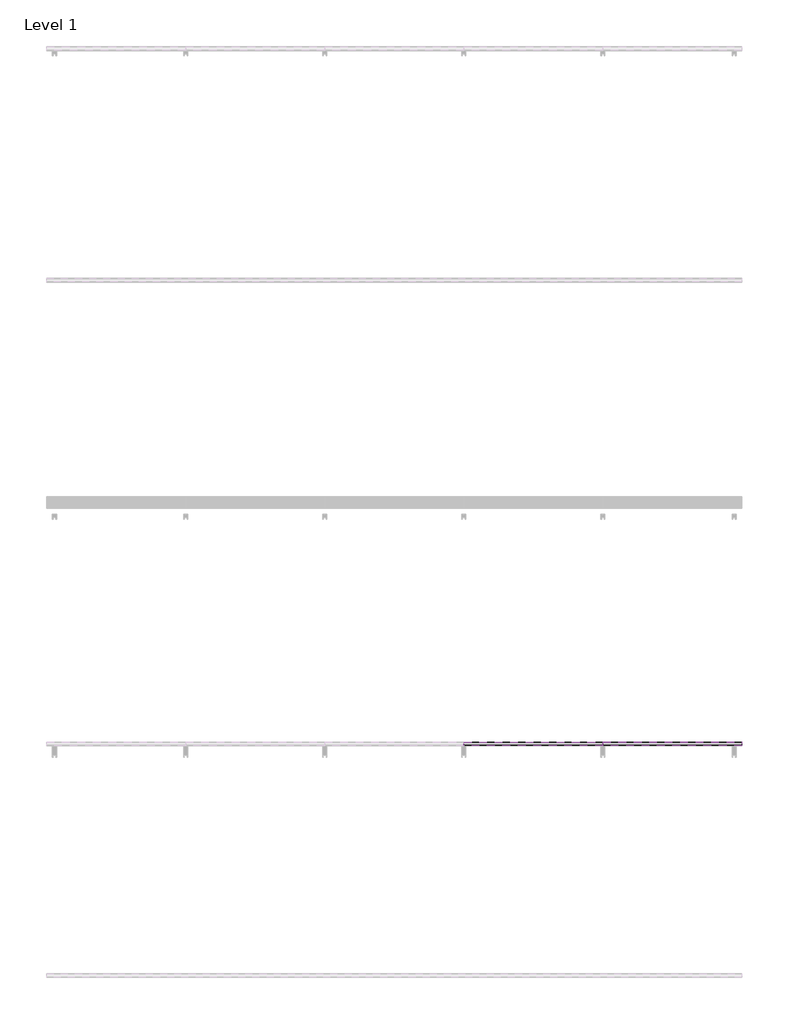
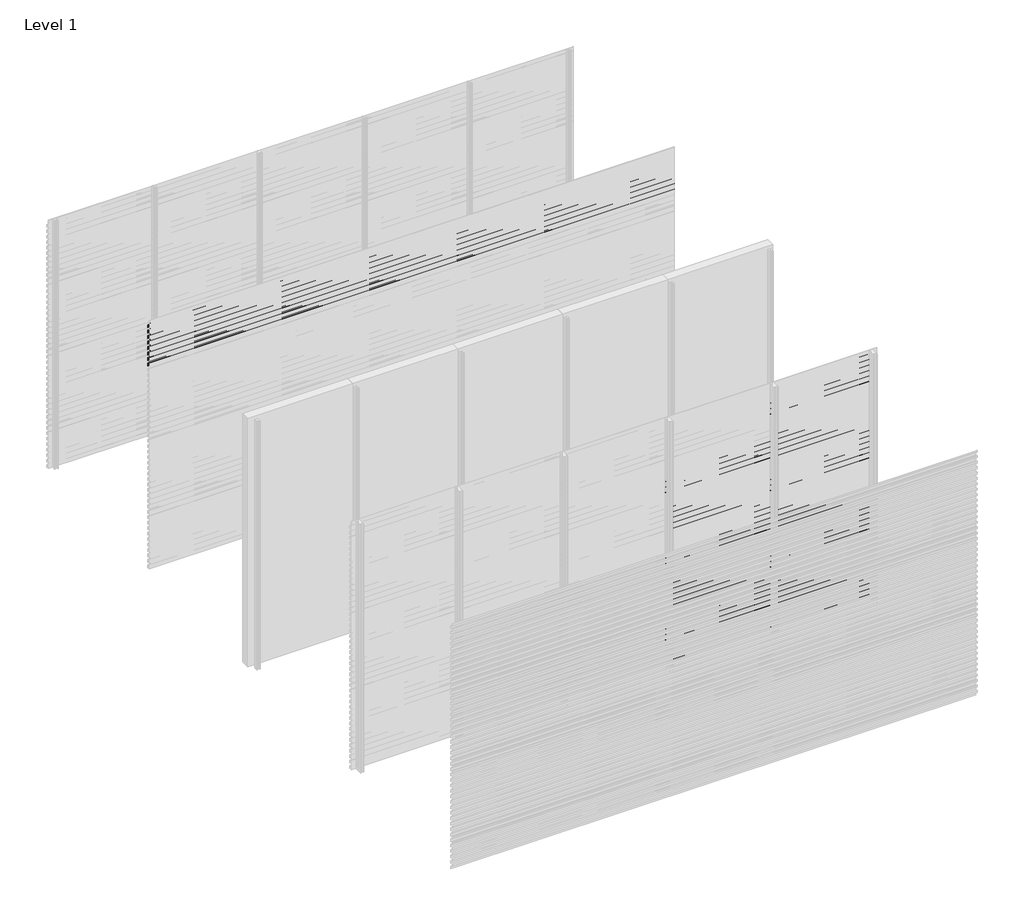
# One storey, part 24 of 33: 88 proxies.
"""IFC4 building model written with IfcOpenShell, lengths in millimetres."""

from ifc_helpers import new_model, si_unit, frame, origin, place, context, project, spatial, polyline, outline, extrude, element, save

model = new_model("IFC4")

# Units and contexts
model_context = context("Model", 3, world=origin())
ifc_project = project(units=[si_unit("LENGTHUNIT", "METRE", prefix="MILLI")], contexts=[model_context])

# Site, building, storey
site = spatial("IfcSite", under=ifc_project)
building = spatial("IfcBuilding", under=site)
storey = spatial("IfcBuildingStorey", under=building, Name="Level 1", Elevation=0.0)

# Proxies
placement = place(None, origin())
element("IfcBuildingElementProxy", 1, Name="Wall Sweeps", at=placement, inside=storey, context=model_context, shape_type="SweptSolid", body=[
    extrude(outline(polyline([(-13967.0, 2930.0), (-13967.0, 2897.0), (-13968.25, 2897.7216933), (-13968.25, 2929.2872415), (-13998.0, 2950.0588647), (-13998.0, 2970.0), (-13996.75, 2970.0), (-13996.75, 2950.7716232), (-13967.0, 2930.0)])), frame((0.0, 0.0, 0.0), z_axis=(1.0, 0.0, 0.0), x_axis=(0.0, 1.0, 0.0)), (0.0, 0.0, 1.0), 6000.0),
])
element("IfcBuildingElementProxy", 2, Name="Wall Sweeps", at=placement, inside=storey, context=model_context, shape_type="SweptSolid", body=[
    extrude(outline(polyline([(-13967.0, 2864.0), (-13967.0, 2831.0), (-13968.25, 2831.7216933), (-13968.25, 2863.2872415), (-13998.0, 2884.0588647), (-13998.0, 2904.0), (-13996.75, 2904.0), (-13996.75, 2884.7716232), (-13967.0, 2864.0)])), frame((0.0, 0.0, 0.0), z_axis=(1.0, 0.0, 0.0), x_axis=(0.0, 1.0, 0.0)), (0.0, 0.0, 1.0), 6000.0),
])
element("IfcBuildingElementProxy", 3, Name="Wall Sweeps", at=placement, inside=storey, context=model_context, shape_type="SweptSolid", body=[
    extrude(outline(polyline([(-13967.0, 2798.0), (-13967.0, 2765.0), (-13968.25, 2765.7216933), (-13968.25, 2797.2872415), (-13998.0, 2818.0588647), (-13998.0, 2838.0), (-13996.75, 2838.0), (-13996.75, 2818.7716232), (-13967.0, 2798.0)])), frame((0.0, 0.0, 0.0), z_axis=(1.0, 0.0, 0.0), x_axis=(0.0, 1.0, 0.0)), (0.0, 0.0, 1.0), 6000.0),
])
element("IfcBuildingElementProxy", 4, Name="Wall Sweeps", at=placement, inside=storey, context=model_context, shape_type="SweptSolid", body=[
    extrude(outline(polyline([(-13967.0, 2732.0), (-13967.0, 2699.0), (-13968.25, 2699.7216933), (-13968.25, 2731.2872415), (-13998.0, 2752.0588647), (-13998.0, 2772.0), (-13996.75, 2772.0), (-13996.75, 2752.7716232), (-13967.0, 2732.0)])), frame((0.0, 0.0, 0.0), z_axis=(1.0, 0.0, 0.0), x_axis=(0.0, 1.0, 0.0)), (0.0, 0.0, 1.0), 6000.0),
])
element("IfcBuildingElementProxy", 5, Name="Wall Sweeps", at=placement, inside=storey, context=model_context, shape_type="SweptSolid", body=[
    extrude(outline(polyline([(-13967.0, 2666.0), (-13967.0, 2633.0), (-13968.25, 2633.7216933), (-13968.25, 2665.2872415), (-13998.0, 2686.0588647), (-13998.0, 2706.0), (-13996.75, 2706.0), (-13996.75, 2686.7716232), (-13967.0, 2666.0)])), frame((0.0, 0.0, 0.0), z_axis=(1.0, 0.0, 0.0), x_axis=(0.0, 1.0, 0.0)), (0.0, 0.0, 1.0), 6000.0),
])
element("IfcBuildingElementProxy", 6, Name="Wall Sweeps", at=placement, inside=storey, context=model_context, shape_type="SweptSolid", body=[
    extrude(outline(polyline([(-13967.0, 2600.0), (-13967.0, 2567.0), (-13968.25, 2567.7216933), (-13968.25, 2599.2872415), (-13998.0, 2620.0588647), (-13998.0, 2640.0), (-13996.75, 2640.0), (-13996.75, 2620.7716232), (-13967.0, 2600.0)])), frame((0.0, 0.0, 0.0), z_axis=(1.0, 0.0, 0.0), x_axis=(0.0, 1.0, 0.0)), (0.0, 0.0, 1.0), 6000.0),
])
element("IfcBuildingElementProxy", 7, Name="Wall Sweeps", at=placement, inside=storey, context=model_context, shape_type="SweptSolid", body=[
    extrude(outline(polyline([(-13967.0, 2534.0), (-13967.0, 2501.0), (-13968.25, 2501.7216933), (-13968.25, 2533.2872415), (-13998.0, 2554.0588647), (-13998.0, 2574.0), (-13996.75, 2574.0), (-13996.75, 2554.7716232), (-13967.0, 2534.0)])), frame((0.0, 0.0, 0.0), z_axis=(1.0, 0.0, 0.0), x_axis=(0.0, 1.0, 0.0)), (0.0, 0.0, 1.0), 6000.0),
])
element("IfcBuildingElementProxy", 8, Name="Wall Sweeps", at=placement, inside=storey, context=model_context, shape_type="SweptSolid", body=[
    extrude(outline(polyline([(-13967.0, 2468.0), (-13967.0, 2435.0), (-13968.25, 2435.7216933), (-13968.25, 2467.2872415), (-13998.0, 2488.0588647), (-13998.0, 2508.0), (-13996.75, 2508.0), (-13996.75, 2488.7716232), (-13967.0, 2468.0)])), frame((0.0, 0.0, 0.0), z_axis=(1.0, 0.0, 0.0), x_axis=(0.0, 1.0, 0.0)), (0.0, 0.0, 1.0), 6000.0),
])
element("IfcBuildingElementProxy", 9, Name="Wall Sweeps", at=placement, inside=storey, context=model_context, shape_type="SweptSolid", body=[
    extrude(outline(polyline([(-17967.0, 2270.0), (-17967.0, 2237.0), (-17968.25, 2237.7216933), (-17968.25, 2269.2872415), (-17998.0, 2290.0588647), (-17998.0, 2310.0), (-17996.75, 2310.0), (-17996.75, 2290.7716232), (-17967.0, 2270.0)])), frame((3600.0, 0.0, 0.0), z_axis=(1.0, 0.0, 0.0), x_axis=(0.0, 1.0, 0.0)), (0.0, 0.0, 1.0), 1200.0),
])
element("IfcBuildingElementProxy", 10, Name="Wall Sweeps", at=placement, inside=storey, context=model_context, shape_type="SweptSolid", body=[
    extrude(outline(polyline([(-17967.0, 2204.0), (-17967.0, 2171.0), (-17968.25, 2171.7216933), (-17968.25, 2203.2872415), (-17998.0, 2224.0588647), (-17998.0, 2244.0), (-17996.75, 2244.0), (-17996.75, 2224.7716232), (-17967.0, 2204.0)])), frame((3600.0, 0.0, 0.0), z_axis=(1.0, 0.0, 0.0), x_axis=(0.0, 1.0, 0.0)), (0.0, 0.0, 1.0), 1200.0),
])
element("IfcBuildingElementProxy", 11, Name="Wall Sweeps", at=placement, inside=storey, context=model_context, shape_type="SweptSolid", body=[
    extrude(outline(polyline([(-17967.0, 2138.0), (-17967.0, 2105.0), (-17968.25, 2105.7216933), (-17968.25, 2137.2872415), (-17998.0, 2158.0588647), (-17998.0, 2178.0), (-17996.75, 2178.0), (-17996.75, 2158.7716232), (-17967.0, 2138.0)])), frame((3600.0, 0.0, 0.0), z_axis=(1.0, 0.0, 0.0), x_axis=(0.0, 1.0, 0.0)), (0.0, 0.0, 1.0), 1200.0),
])
element("IfcBuildingElementProxy", 12, Name="Wall Sweeps", at=placement, inside=storey, context=model_context, shape_type="SweptSolid", body=[
    extrude(outline(polyline([(-17967.0, 2072.0), (-17967.0, 2039.0), (-17968.25, 2039.7216933), (-17968.25, 2071.2872415), (-17998.0, 2092.0588647), (-17998.0, 2112.0), (-17996.75, 2112.0), (-17996.75, 2092.7716232), (-17967.0, 2072.0)])), frame((3600.0, 0.0, 0.0), z_axis=(1.0, 0.0, 0.0), x_axis=(0.0, 1.0, 0.0)), (0.0, 0.0, 1.0), 1200.0),
])
element("IfcBuildingElementProxy", 13, Name="Wall Sweeps", at=placement, inside=storey, context=model_context, shape_type="SweptSolid", body=[
    extrude(outline(polyline([(-17967.0, 2006.0), (-17967.0, 1973.0), (-17968.25, 1973.7216933), (-17968.25, 2005.2872415), (-17998.0, 2026.0588647), (-17998.0, 2046.0), (-17996.75, 2046.0), (-17996.75, 2026.7716232), (-17967.0, 2006.0)])), frame((3600.0, 0.0, 0.0), z_axis=(1.0, 0.0, 0.0), x_axis=(0.0, 1.0, 0.0)), (0.0, 0.0, 1.0), 1200.0),
])
element("IfcBuildingElementProxy", 14, Name="Wall Sweeps", at=placement, inside=storey, context=model_context, shape_type="SweptSolid", body=[
    extrude(outline(polyline([(-17967.0, 1940.0), (-17967.0, 1907.0), (-17968.25, 1907.7216933), (-17968.25, 1939.2872415), (-17998.0, 1960.0588647), (-17998.0, 1980.0), (-17996.75, 1980.0), (-17996.75, 1960.7716232), (-17967.0, 1940.0)])), frame((3600.0, 0.0, 0.0), z_axis=(1.0, 0.0, 0.0), x_axis=(0.0, 1.0, 0.0)), (0.0, 0.0, 1.0), 1200.0),
])
element("IfcBuildingElementProxy", 15, Name="Wall Sweeps", at=placement, inside=storey, context=model_context, shape_type="SweptSolid", body=[
    extrude(outline(polyline([(-17967.0, 1874.0), (-17967.0, 1841.0), (-17968.25, 1841.7216933), (-17968.25, 1873.2872415), (-17998.0, 1894.0588647), (-17998.0, 1914.0), (-17996.75, 1914.0), (-17996.75, 1894.7716232), (-17967.0, 1874.0)])), frame((3600.0, 0.0, 0.0), z_axis=(1.0, 0.0, 0.0), x_axis=(0.0, 1.0, 0.0)), (0.0, 0.0, 1.0), 1200.0),
])
element("IfcBuildingElementProxy", 16, Name="Wall Sweeps", at=placement, inside=storey, context=model_context, shape_type="SweptSolid", body=[
    extrude(outline(polyline([(-17967.0, 1808.0), (-17967.0, 1775.0), (-17968.25, 1775.7216933), (-17968.25, 1807.2872415), (-17998.0, 1828.0588647), (-17998.0, 1848.0), (-17996.75, 1848.0), (-17996.75, 1828.7716232), (-17967.0, 1808.0)])), frame((3600.0, 0.0, 0.0), z_axis=(1.0, 0.0, 0.0), x_axis=(0.0, 1.0, 0.0)), (0.0, 0.0, 1.0), 1200.0),
])
element("IfcBuildingElementProxy", 17, Name="Wall Sweeps", at=placement, inside=storey, context=model_context, shape_type="SweptSolid", body=[
    extrude(outline(polyline([(-17967.0, 1742.0), (-17967.0, 1709.0), (-17968.25, 1709.7216933), (-17968.25, 1741.2872415), (-17998.0, 1762.0588647), (-17998.0, 1782.0), (-17996.75, 1782.0), (-17996.75, 1762.7716232), (-17967.0, 1742.0)])), frame((3600.0, 0.0, 0.0), z_axis=(1.0, 0.0, 0.0), x_axis=(0.0, 1.0, 0.0)), (0.0, 0.0, 1.0), 1200.0),
])
element("IfcBuildingElementProxy", 18, Name="Wall Sweeps", at=placement, inside=storey, context=model_context, shape_type="SweptSolid", body=[
    extrude(outline(polyline([(-17967.0, 1676.0), (-17967.0, 1643.0), (-17968.25, 1643.7216933), (-17968.25, 1675.2872415), (-17998.0, 1696.0588647), (-17998.0, 1716.0), (-17996.75, 1716.0), (-17996.75, 1696.7716232), (-17967.0, 1676.0)])), frame((3600.0, 0.0, 0.0), z_axis=(1.0, 0.0, 0.0), x_axis=(0.0, 1.0, 0.0)), (0.0, 0.0, 1.0), 1200.0),
])
element("IfcBuildingElementProxy", 19, Name="Wall Sweeps", at=placement, inside=storey, context=model_context, shape_type="SweptSolid", body=[
    extrude(outline(polyline([(-17967.0, 1610.0), (-17967.0, 1577.0), (-17968.25, 1577.7216933), (-17968.25, 1609.2872415), (-17998.0, 1630.0588647), (-17998.0, 1650.0), (-17996.75, 1650.0), (-17996.75, 1630.7716232), (-17967.0, 1610.0)])), frame((3600.0, 0.0, 0.0), z_axis=(1.0, 0.0, 0.0), x_axis=(0.0, 1.0, 0.0)), (0.0, 0.0, 1.0), 1200.0),
])
element("IfcBuildingElementProxy", 20, Name="Wall Sweeps", at=placement, inside=storey, context=model_context, shape_type="SweptSolid", body=[
    extrude(outline(polyline([(-17967.0, 1544.0), (-17967.0, 1511.0), (-17968.25, 1511.7216933), (-17968.25, 1543.2872415), (-17998.0, 1564.0588647), (-17998.0, 1584.0), (-17996.75, 1584.0), (-17996.75, 1564.7716232), (-17967.0, 1544.0)])), frame((3600.0, 0.0, 0.0), z_axis=(1.0, 0.0, 0.0), x_axis=(0.0, 1.0, 0.0)), (0.0, 0.0, 1.0), 1200.0),
])
element("IfcBuildingElementProxy", 21, Name="Wall Sweeps", at=placement, inside=storey, context=model_context, shape_type="SweptSolid", body=[
    extrude(outline(polyline([(-17967.0, 1478.0), (-17967.0, 1445.0), (-17968.25, 1445.7216933), (-17968.25, 1477.2872415), (-17998.0, 1498.0588647), (-17998.0, 1518.0), (-17996.75, 1518.0), (-17996.75, 1498.7716232), (-17967.0, 1478.0)])), frame((3600.0, 0.0, 0.0), z_axis=(1.0, 0.0, 0.0), x_axis=(0.0, 1.0, 0.0)), (0.0, 0.0, 1.0), 1200.0),
])
element("IfcBuildingElementProxy", 22, Name="Wall Sweeps", at=placement, inside=storey, context=model_context, shape_type="SweptSolid", body=[
    extrude(outline(polyline([(-17967.0, 1412.0), (-17967.0, 1379.0), (-17968.25, 1379.7216933), (-17968.25, 1411.2872415), (-17998.0, 1432.0588647), (-17998.0, 1452.0), (-17996.75, 1452.0), (-17996.75, 1432.7716232), (-17967.0, 1412.0)])), frame((3600.0, 0.0, 0.0), z_axis=(1.0, 0.0, 0.0), x_axis=(0.0, 1.0, 0.0)), (0.0, 0.0, 1.0), 1200.0),
])
element("IfcBuildingElementProxy", 23, Name="Wall Sweeps", at=placement, inside=storey, context=model_context, shape_type="SweptSolid", body=[
    extrude(outline(polyline([(-17967.0, 1346.0), (-17967.0, 1313.0), (-17968.25, 1313.7216933), (-17968.25, 1345.2872415), (-17998.0, 1366.0588647), (-17998.0, 1386.0), (-17996.75, 1386.0), (-17996.75, 1366.7716232), (-17967.0, 1346.0)])), frame((3600.0, 0.0, 0.0), z_axis=(1.0, 0.0, 0.0), x_axis=(0.0, 1.0, 0.0)), (0.0, 0.0, 1.0), 1200.0),
])
element("IfcBuildingElementProxy", 24, Name="Wall Sweeps", at=placement, inside=storey, context=model_context, shape_type="SweptSolid", body=[
    extrude(outline(polyline([(-17967.0, 1280.0), (-17967.0, 1247.0), (-17968.25, 1247.7216933), (-17968.25, 1279.2872415), (-17998.0, 1300.0588647), (-17998.0, 1320.0), (-17996.75, 1320.0), (-17996.75, 1300.7716232), (-17967.0, 1280.0)])), frame((3600.0, 0.0, 0.0), z_axis=(1.0, 0.0, 0.0), x_axis=(0.0, 1.0, 0.0)), (0.0, 0.0, 1.0), 1200.0),
])
element("IfcBuildingElementProxy", 25, Name="Wall Sweeps", at=placement, inside=storey, context=model_context, shape_type="SweptSolid", body=[
    extrude(outline(polyline([(-17967.0, 1214.0), (-17967.0, 1181.0), (-17968.25, 1181.7216933), (-17968.25, 1213.2872415), (-17998.0, 1234.0588647), (-17998.0, 1254.0), (-17996.75, 1254.0), (-17996.75, 1234.7716232), (-17967.0, 1214.0)])), frame((3600.0, 0.0, 0.0), z_axis=(1.0, 0.0, 0.0), x_axis=(0.0, 1.0, 0.0)), (0.0, 0.0, 1.0), 1200.0),
])
element("IfcBuildingElementProxy", 26, Name="Wall Sweeps", at=placement, inside=storey, context=model_context, shape_type="SweptSolid", body=[
    extrude(outline(polyline([(-17967.0, 1148.0), (-17967.0, 1115.0), (-17968.25, 1115.7216933), (-17968.25, 1147.2872415), (-17998.0, 1168.0588647), (-17998.0, 1188.0), (-17996.75, 1188.0), (-17996.75, 1168.7716232), (-17967.0, 1148.0)])), frame((3600.0, 0.0, 0.0), z_axis=(1.0, 0.0, 0.0), x_axis=(0.0, 1.0, 0.0)), (0.0, 0.0, 1.0), 1200.0),
])
element("IfcBuildingElementProxy", 27, Name="Wall Sweeps", at=placement, inside=storey, context=model_context, shape_type="SweptSolid", body=[
    extrude(outline(polyline([(-17967.0, 1082.0), (-17967.0, 1049.0), (-17968.25, 1049.7216933), (-17968.25, 1081.2872415), (-17998.0, 1102.0588647), (-17998.0, 1122.0), (-17996.75, 1122.0), (-17996.75, 1102.7716232), (-17967.0, 1082.0)])), frame((3600.0, 0.0, 0.0), z_axis=(1.0, 0.0, 0.0), x_axis=(0.0, 1.0, 0.0)), (0.0, 0.0, 1.0), 1200.0),
])
element("IfcBuildingElementProxy", 28, Name="Wall Sweeps", at=placement, inside=storey, context=model_context, shape_type="SweptSolid", body=[
    extrude(outline(polyline([(-17967.0, 1016.0), (-17967.0, 983.0), (-17968.25, 983.7216933), (-17968.25, 1015.2872415), (-17998.0, 1036.0588647), (-17998.0, 1056.0), (-17996.75, 1056.0), (-17996.75, 1036.7716232), (-17967.0, 1016.0)])), frame((3600.0, 0.0, 0.0), z_axis=(1.0, 0.0, 0.0), x_axis=(0.0, 1.0, 0.0)), (0.0, 0.0, 1.0), 1200.0),
])
element("IfcBuildingElementProxy", 29, Name="Wall Sweeps", at=placement, inside=storey, context=model_context, shape_type="SweptSolid", body=[
    extrude(outline(polyline([(-17967.0, 950.0), (-17967.0, 917.0), (-17968.25, 917.7216933), (-17968.25, 949.2872415), (-17998.0, 970.0588647), (-17998.0, 990.0), (-17996.75, 990.0), (-17996.75, 970.7716232), (-17967.0, 950.0)])), frame((3600.0, 0.0, 0.0), z_axis=(1.0, 0.0, 0.0), x_axis=(0.0, 1.0, 0.0)), (0.0, 0.0, 1.0), 1200.0),
])
element("IfcBuildingElementProxy", 30, Name="Wall Sweeps", at=placement, inside=storey, context=model_context, shape_type="SweptSolid", body=[
    extrude(outline(polyline([(-17967.0, 884.0), (-17967.0, 851.0), (-17968.25, 851.7216933), (-17968.25, 883.2872415), (-17998.0, 904.0588647), (-17998.0, 924.0), (-17996.75, 924.0), (-17996.75, 904.7716232), (-17967.0, 884.0)])), frame((3600.0, 0.0, 0.0), z_axis=(1.0, 0.0, 0.0), x_axis=(0.0, 1.0, 0.0)), (0.0, 0.0, 1.0), 1200.0),
])
element("IfcBuildingElementProxy", 31, Name="Wall Sweeps", at=placement, inside=storey, context=model_context, shape_type="SweptSolid", body=[
    extrude(outline(polyline([(-17967.0, 818.0), (-17967.0, 785.0), (-17968.25, 785.7216933), (-17968.25, 817.2872415), (-17998.0, 838.0588647), (-17998.0, 858.0), (-17996.75, 858.0), (-17996.75, 838.7716232), (-17967.0, 818.0)])), frame((3600.0, 0.0, 0.0), z_axis=(1.0, 0.0, 0.0), x_axis=(0.0, 1.0, 0.0)), (0.0, 0.0, 1.0), 1200.0),
])
element("IfcBuildingElementProxy", 32, Name="Wall Sweeps", at=placement, inside=storey, context=model_context, shape_type="SweptSolid", body=[
    extrude(outline(polyline([(-17967.0, 752.0), (-17967.0, 719.0), (-17968.25, 719.7216933), (-17968.25, 751.2872415), (-17998.0, 772.0588647), (-17998.0, 792.0), (-17996.75, 792.0), (-17996.75, 772.7716232), (-17967.0, 752.0)])), frame((3600.0, 0.0, 0.0), z_axis=(1.0, 0.0, 0.0), x_axis=(0.0, 1.0, 0.0)), (0.0, 0.0, 1.0), 1200.0),
])
element("IfcBuildingElementProxy", 33, Name="Wall Sweeps", at=placement, inside=storey, context=model_context, shape_type="SweptSolid", body=[
    extrude(outline(polyline([(-17967.0, 686.0), (-17967.0, 653.0), (-17968.25, 653.7216933), (-17968.25, 685.2872415), (-17998.0, 706.0588647), (-17998.0, 726.0), (-17996.75, 726.0), (-17996.75, 706.7716232), (-17967.0, 686.0)])), frame((3600.0, 0.0, 0.0), z_axis=(1.0, 0.0, 0.0), x_axis=(0.0, 1.0, 0.0)), (0.0, 0.0, 1.0), 1200.0),
])
element("IfcBuildingElementProxy", 34, Name="Wall Sweeps", at=placement, inside=storey, context=model_context, shape_type="SweptSolid", body=[
    extrude(outline(polyline([(-17967.0, 620.0), (-17967.0, 587.0), (-17968.25, 587.7216933), (-17968.25, 619.2872415), (-17998.0, 640.0588647), (-17998.0, 660.0), (-17996.75, 660.0), (-17996.75, 640.7716232), (-17967.0, 620.0)])), frame((3600.0, 0.0, 0.0), z_axis=(1.0, 0.0, 0.0), x_axis=(0.0, 1.0, 0.0)), (0.0, 0.0, 1.0), 1200.0),
])
element("IfcBuildingElementProxy", 35, Name="Wall Sweeps", at=placement, inside=storey, context=model_context, shape_type="SweptSolid", body=[
    extrude(outline(polyline([(-17967.0, 554.0), (-17967.0, 521.0), (-17968.25, 521.7216933), (-17968.25, 553.2872415), (-17998.0, 574.0588647), (-17998.0, 594.0), (-17996.75, 594.0), (-17996.75, 574.7716232), (-17967.0, 554.0)])), frame((3600.0, 0.0, 0.0), z_axis=(1.0, 0.0, 0.0), x_axis=(0.0, 1.0, 0.0)), (0.0, 0.0, 1.0), 1200.0),
])
element("IfcBuildingElementProxy", 36, Name="Wall Sweeps", at=placement, inside=storey, context=model_context, shape_type="SweptSolid", body=[
    extrude(outline(polyline([(-17967.0, 488.0), (-17967.0, 455.0), (-17968.25, 455.7216933), (-17968.25, 487.2872415), (-17998.0, 508.0588647), (-17998.0, 528.0), (-17996.75, 528.0), (-17996.75, 508.7716232), (-17967.0, 488.0)])), frame((3600.0, 0.0, 0.0), z_axis=(1.0, 0.0, 0.0), x_axis=(0.0, 1.0, 0.0)), (0.0, 0.0, 1.0), 1200.0),
])
element("IfcBuildingElementProxy", 37, Name="Wall Sweeps", at=placement, inside=storey, context=model_context, shape_type="SweptSolid", body=[
    extrude(outline(polyline([(-17967.0, 422.0), (-17967.0, 389.0), (-17968.25, 389.7216933), (-17968.25, 421.2872415), (-17998.0, 442.0588647), (-17998.0, 462.0), (-17996.75, 462.0), (-17996.75, 442.7716232), (-17967.0, 422.0)])), frame((3600.0, 0.0, 0.0), z_axis=(1.0, 0.0, 0.0), x_axis=(0.0, 1.0, 0.0)), (0.0, 0.0, 1.0), 1200.0),
])
element("IfcBuildingElementProxy", 38, Name="Wall Sweeps", at=placement, inside=storey, context=model_context, shape_type="SweptSolid", body=[
    extrude(outline(polyline([(-17967.0, 356.0), (-17967.0, 323.0), (-17968.25, 323.7216933), (-17968.25, 355.2872415), (-17998.0, 376.0588647), (-17998.0, 396.0), (-17996.75, 396.0), (-17996.75, 376.7716232), (-17967.0, 356.0)])), frame((3600.0, 0.0, 0.0), z_axis=(1.0, 0.0, 0.0), x_axis=(0.0, 1.0, 0.0)), (0.0, 0.0, 1.0), 1200.0),
])
element("IfcBuildingElementProxy", 39, Name="Wall Sweeps", at=placement, inside=storey, context=model_context, shape_type="SweptSolid", body=[
    extrude(outline(polyline([(-17967.0, 290.0), (-17967.0, 257.0), (-17968.25, 257.7216933), (-17968.25, 289.2872415), (-17998.0, 310.0588647), (-17998.0, 330.0), (-17996.75, 330.0), (-17996.75, 310.7716232), (-17967.0, 290.0)])), frame((3600.0, 0.0, 0.0), z_axis=(1.0, 0.0, 0.0), x_axis=(0.0, 1.0, 0.0)), (0.0, 0.0, 1.0), 1200.0),
])
element("IfcBuildingElementProxy", 40, Name="Wall Sweeps", at=placement, inside=storey, context=model_context, shape_type="SweptSolid", body=[
    extrude(outline(polyline([(-17967.0, 224.0), (-17967.0, 191.0), (-17968.25, 191.7216933), (-17968.25, 223.2872415), (-17998.0, 244.0588647), (-17998.0, 264.0), (-17996.75, 264.0), (-17996.75, 244.7716232), (-17967.0, 224.0)])), frame((3600.0, 0.0, 0.0), z_axis=(1.0, 0.0, 0.0), x_axis=(0.0, 1.0, 0.0)), (0.0, 0.0, 1.0), 1200.0),
])
element("IfcBuildingElementProxy", 41, Name="Wall Sweeps", at=placement, inside=storey, context=model_context, shape_type="SweptSolid", body=[
    extrude(outline(polyline([(-17967.0, 158.0), (-17967.0, 125.0), (-17968.25, 125.7216933), (-17968.25, 157.2872415), (-17998.0, 178.0588647), (-17998.0, 198.0), (-17996.75, 198.0), (-17996.75, 178.7716232), (-17967.0, 158.0)])), frame((3600.0, 0.0, 0.0), z_axis=(1.0, 0.0, 0.0), x_axis=(0.0, 1.0, 0.0)), (0.0, 0.0, 1.0), 1200.0),
])
element("IfcBuildingElementProxy", 42, Name="Wall Sweeps", at=placement, inside=storey, context=model_context, shape_type="SweptSolid", body=[
    extrude(outline(polyline([(-17967.0, 92.0), (-17967.0, 59.0), (-17968.25, 59.7216933), (-17968.25, 91.2872415), (-17998.0, 112.0588647), (-17998.0, 132.0), (-17996.75, 132.0), (-17996.75, 112.7716232), (-17967.0, 92.0)])), frame((3600.0, 0.0, 0.0), z_axis=(1.0, 0.0, 0.0), x_axis=(0.0, 1.0, 0.0)), (0.0, 0.0, 1.0), 1200.0),
])
element("IfcBuildingElementProxy", 43, Name="Wall Sweeps", at=placement, inside=storey, context=model_context, shape_type="SweptSolid", body=[
    extrude(outline(polyline([(-17967.0, 26.0), (-17967.0, -7.0), (-17968.25, -6.2783067), (-17968.25, 25.2872415), (-17998.0, 46.0588647), (-17998.0, 66.0), (-17996.75, 66.0), (-17996.75, 46.7716232), (-17967.0, 26.0)])), frame((3600.0, 0.0, 0.0), z_axis=(1.0, 0.0, 0.0), x_axis=(0.0, 1.0, 0.0)), (0.0, 0.0, 1.0), 1200.0),
])
element("IfcBuildingElementProxy", 44, Name="Wall Sweeps", at=placement, inside=storey, context=model_context, shape_type="SweptSolid", body=[
    extrude(outline(polyline([(-17967.0, 2930.0), (-17967.0, 2897.0), (-17968.25, 2897.7216933), (-17968.25, 2929.2872415), (-17998.0, 2950.0588647), (-17998.0, 2970.0), (-17996.75, 2970.0), (-17996.75, 2950.7716232), (-17967.0, 2930.0)])), frame((4800.0, 0.0, 0.0), z_axis=(1.0, 0.0, 0.0), x_axis=(0.0, 1.0, 0.0)), (0.0, 0.0, 1.0), 1200.0),
])
element("IfcBuildingElementProxy", 45, Name="Wall Sweeps", at=placement, inside=storey, context=model_context, shape_type="SweptSolid", body=[
    extrude(outline(polyline([(-17967.0, 2864.0), (-17967.0, 2831.0), (-17968.25, 2831.7216933), (-17968.25, 2863.2872415), (-17998.0, 2884.0588647), (-17998.0, 2904.0), (-17996.75, 2904.0), (-17996.75, 2884.7716232), (-17967.0, 2864.0)])), frame((4800.0, 0.0, 0.0), z_axis=(1.0, 0.0, 0.0), x_axis=(0.0, 1.0, 0.0)), (0.0, 0.0, 1.0), 1200.0),
])
element("IfcBuildingElementProxy", 46, Name="Wall Sweeps", at=placement, inside=storey, context=model_context, shape_type="SweptSolid", body=[
    extrude(outline(polyline([(-17967.0, 2798.0), (-17967.0, 2765.0), (-17968.25, 2765.7216933), (-17968.25, 2797.2872415), (-17998.0, 2818.0588647), (-17998.0, 2838.0), (-17996.75, 2838.0), (-17996.75, 2818.7716232), (-17967.0, 2798.0)])), frame((4800.0, 0.0, 0.0), z_axis=(1.0, 0.0, 0.0), x_axis=(0.0, 1.0, 0.0)), (0.0, 0.0, 1.0), 1200.0),
])
element("IfcBuildingElementProxy", 47, Name="Wall Sweeps", at=placement, inside=storey, context=model_context, shape_type="SweptSolid", body=[
    extrude(outline(polyline([(-17967.0, 2732.0), (-17967.0, 2699.0), (-17968.25, 2699.7216933), (-17968.25, 2731.2872415), (-17998.0, 2752.0588647), (-17998.0, 2772.0), (-17996.75, 2772.0), (-17996.75, 2752.7716232), (-17967.0, 2732.0)])), frame((4800.0, 0.0, 0.0), z_axis=(1.0, 0.0, 0.0), x_axis=(0.0, 1.0, 0.0)), (0.0, 0.0, 1.0), 1200.0),
])
element("IfcBuildingElementProxy", 48, Name="Wall Sweeps", at=placement, inside=storey, context=model_context, shape_type="SweptSolid", body=[
    extrude(outline(polyline([(-17967.0, 2666.0), (-17967.0, 2633.0), (-17968.25, 2633.7216933), (-17968.25, 2665.2872415), (-17998.0, 2686.0588647), (-17998.0, 2706.0), (-17996.75, 2706.0), (-17996.75, 2686.7716232), (-17967.0, 2666.0)])), frame((4800.0, 0.0, 0.0), z_axis=(1.0, 0.0, 0.0), x_axis=(0.0, 1.0, 0.0)), (0.0, 0.0, 1.0), 1200.0),
])
element("IfcBuildingElementProxy", 49, Name="Wall Sweeps", at=placement, inside=storey, context=model_context, shape_type="SweptSolid", body=[
    extrude(outline(polyline([(-17967.0, 2600.0), (-17967.0, 2567.0), (-17968.25, 2567.7216933), (-17968.25, 2599.2872415), (-17998.0, 2620.0588647), (-17998.0, 2640.0), (-17996.75, 2640.0), (-17996.75, 2620.7716232), (-17967.0, 2600.0)])), frame((4800.0, 0.0, 0.0), z_axis=(1.0, 0.0, 0.0), x_axis=(0.0, 1.0, 0.0)), (0.0, 0.0, 1.0), 1200.0),
])
element("IfcBuildingElementProxy", 50, Name="Wall Sweeps", at=placement, inside=storey, context=model_context, shape_type="SweptSolid", body=[
    extrude(outline(polyline([(-17967.0, 2534.0), (-17967.0, 2501.0), (-17968.25, 2501.7216933), (-17968.25, 2533.2872415), (-17998.0, 2554.0588647), (-17998.0, 2574.0), (-17996.75, 2574.0), (-17996.75, 2554.7716232), (-17967.0, 2534.0)])), frame((4800.0, 0.0, 0.0), z_axis=(1.0, 0.0, 0.0), x_axis=(0.0, 1.0, 0.0)), (0.0, 0.0, 1.0), 1200.0),
])
element("IfcBuildingElementProxy", 51, Name="Wall Sweeps", at=placement, inside=storey, context=model_context, shape_type="SweptSolid", body=[
    extrude(outline(polyline([(-17967.0, 2468.0), (-17967.0, 2435.0), (-17968.25, 2435.7216933), (-17968.25, 2467.2872415), (-17998.0, 2488.0588647), (-17998.0, 2508.0), (-17996.75, 2508.0), (-17996.75, 2488.7716232), (-17967.0, 2468.0)])), frame((4800.0, 0.0, 0.0), z_axis=(1.0, 0.0, 0.0), x_axis=(0.0, 1.0, 0.0)), (0.0, 0.0, 1.0), 1200.0),
])
element("IfcBuildingElementProxy", 52, Name="Wall Sweeps", at=placement, inside=storey, context=model_context, shape_type="SweptSolid", body=[
    extrude(outline(polyline([(-17967.0, 2402.0), (-17967.0, 2369.0), (-17968.25, 2369.7216933), (-17968.25, 2401.2872415), (-17998.0, 2422.0588647), (-17998.0, 2442.0), (-17996.75, 2442.0), (-17996.75, 2422.7716232), (-17967.0, 2402.0)])), frame((4800.0, 0.0, 0.0), z_axis=(1.0, 0.0, 0.0), x_axis=(0.0, 1.0, 0.0)), (0.0, 0.0, 1.0), 1200.0),
])
element("IfcBuildingElementProxy", 53, Name="Wall Sweeps", at=placement, inside=storey, context=model_context, shape_type="SweptSolid", body=[
    extrude(outline(polyline([(-17967.0, 2336.0), (-17967.0, 2303.0), (-17968.25, 2303.7216933), (-17968.25, 2335.2872415), (-17998.0, 2356.0588647), (-17998.0, 2376.0), (-17996.75, 2376.0), (-17996.75, 2356.7716232), (-17967.0, 2336.0)])), frame((4800.0, 0.0, 0.0), z_axis=(1.0, 0.0, 0.0), x_axis=(0.0, 1.0, 0.0)), (0.0, 0.0, 1.0), 1200.0),
])
element("IfcBuildingElementProxy", 54, Name="Wall Sweeps", at=placement, inside=storey, context=model_context, shape_type="SweptSolid", body=[
    extrude(outline(polyline([(-17967.0, 2270.0), (-17967.0, 2237.0), (-17968.25, 2237.7216933), (-17968.25, 2269.2872415), (-17998.0, 2290.0588647), (-17998.0, 2310.0), (-17996.75, 2310.0), (-17996.75, 2290.7716232), (-17967.0, 2270.0)])), frame((4800.0, 0.0, 0.0), z_axis=(1.0, 0.0, 0.0), x_axis=(0.0, 1.0, 0.0)), (0.0, 0.0, 1.0), 1200.0),
])
element("IfcBuildingElementProxy", 55, Name="Wall Sweeps", at=placement, inside=storey, context=model_context, shape_type="SweptSolid", body=[
    extrude(outline(polyline([(-17967.0, 2204.0), (-17967.0, 2171.0), (-17968.25, 2171.7216933), (-17968.25, 2203.2872415), (-17998.0, 2224.0588647), (-17998.0, 2244.0), (-17996.75, 2244.0), (-17996.75, 2224.7716232), (-17967.0, 2204.0)])), frame((4800.0, 0.0, 0.0), z_axis=(1.0, 0.0, 0.0), x_axis=(0.0, 1.0, 0.0)), (0.0, 0.0, 1.0), 1200.0),
])
element("IfcBuildingElementProxy", 56, Name="Wall Sweeps", at=placement, inside=storey, context=model_context, shape_type="SweptSolid", body=[
    extrude(outline(polyline([(-17967.0, 2138.0), (-17967.0, 2105.0), (-17968.25, 2105.7216933), (-17968.25, 2137.2872415), (-17998.0, 2158.0588647), (-17998.0, 2178.0), (-17996.75, 2178.0), (-17996.75, 2158.7716232), (-17967.0, 2138.0)])), frame((4800.0, 0.0, 0.0), z_axis=(1.0, 0.0, 0.0), x_axis=(0.0, 1.0, 0.0)), (0.0, 0.0, 1.0), 1200.0),
])
element("IfcBuildingElementProxy", 57, Name="Wall Sweeps", at=placement, inside=storey, context=model_context, shape_type="SweptSolid", body=[
    extrude(outline(polyline([(-17967.0, 2072.0), (-17967.0, 2039.0), (-17968.25, 2039.7216933), (-17968.25, 2071.2872415), (-17998.0, 2092.0588647), (-17998.0, 2112.0), (-17996.75, 2112.0), (-17996.75, 2092.7716232), (-17967.0, 2072.0)])), frame((4800.0, 0.0, 0.0), z_axis=(1.0, 0.0, 0.0), x_axis=(0.0, 1.0, 0.0)), (0.0, 0.0, 1.0), 1200.0),
])
element("IfcBuildingElementProxy", 58, Name="Wall Sweeps", at=placement, inside=storey, context=model_context, shape_type="SweptSolid", body=[
    extrude(outline(polyline([(-17967.0, 2006.0), (-17967.0, 1973.0), (-17968.25, 1973.7216933), (-17968.25, 2005.2872415), (-17998.0, 2026.0588647), (-17998.0, 2046.0), (-17996.75, 2046.0), (-17996.75, 2026.7716232), (-17967.0, 2006.0)])), frame((4800.0, 0.0, 0.0), z_axis=(1.0, 0.0, 0.0), x_axis=(0.0, 1.0, 0.0)), (0.0, 0.0, 1.0), 1200.0),
])
element("IfcBuildingElementProxy", 59, Name="Wall Sweeps", at=placement, inside=storey, context=model_context, shape_type="SweptSolid", body=[
    extrude(outline(polyline([(-17967.0, 1940.0), (-17967.0, 1907.0), (-17968.25, 1907.7216933), (-17968.25, 1939.2872415), (-17998.0, 1960.0588647), (-17998.0, 1980.0), (-17996.75, 1980.0), (-17996.75, 1960.7716232), (-17967.0, 1940.0)])), frame((4800.0, 0.0, 0.0), z_axis=(1.0, 0.0, 0.0), x_axis=(0.0, 1.0, 0.0)), (0.0, 0.0, 1.0), 1200.0),
])
element("IfcBuildingElementProxy", 60, Name="Wall Sweeps", at=placement, inside=storey, context=model_context, shape_type="SweptSolid", body=[
    extrude(outline(polyline([(-17967.0, 1874.0), (-17967.0, 1841.0), (-17968.25, 1841.7216933), (-17968.25, 1873.2872415), (-17998.0, 1894.0588647), (-17998.0, 1914.0), (-17996.75, 1914.0), (-17996.75, 1894.7716232), (-17967.0, 1874.0)])), frame((4800.0, 0.0, 0.0), z_axis=(1.0, 0.0, 0.0), x_axis=(0.0, 1.0, 0.0)), (0.0, 0.0, 1.0), 1200.0),
])
element("IfcBuildingElementProxy", 61, Name="Wall Sweeps", at=placement, inside=storey, context=model_context, shape_type="SweptSolid", body=[
    extrude(outline(polyline([(-17967.0, 1808.0), (-17967.0, 1775.0), (-17968.25, 1775.7216933), (-17968.25, 1807.2872415), (-17998.0, 1828.0588647), (-17998.0, 1848.0), (-17996.75, 1848.0), (-17996.75, 1828.7716232), (-17967.0, 1808.0)])), frame((4800.0, 0.0, 0.0), z_axis=(1.0, 0.0, 0.0), x_axis=(0.0, 1.0, 0.0)), (0.0, 0.0, 1.0), 1200.0),
])
element("IfcBuildingElementProxy", 62, Name="Wall Sweeps", at=placement, inside=storey, context=model_context, shape_type="SweptSolid", body=[
    extrude(outline(polyline([(-17967.0, 1742.0), (-17967.0, 1709.0), (-17968.25, 1709.7216933), (-17968.25, 1741.2872415), (-17998.0, 1762.0588647), (-17998.0, 1782.0), (-17996.75, 1782.0), (-17996.75, 1762.7716232), (-17967.0, 1742.0)])), frame((4800.0, 0.0, 0.0), z_axis=(1.0, 0.0, 0.0), x_axis=(0.0, 1.0, 0.0)), (0.0, 0.0, 1.0), 1200.0),
])
element("IfcBuildingElementProxy", 63, Name="Wall Sweeps", at=placement, inside=storey, context=model_context, shape_type="SweptSolid", body=[
    extrude(outline(polyline([(-17967.0, 1676.0), (-17967.0, 1643.0), (-17968.25, 1643.7216933), (-17968.25, 1675.2872415), (-17998.0, 1696.0588647), (-17998.0, 1716.0), (-17996.75, 1716.0), (-17996.75, 1696.7716232), (-17967.0, 1676.0)])), frame((4800.0, 0.0, 0.0), z_axis=(1.0, 0.0, 0.0), x_axis=(0.0, 1.0, 0.0)), (0.0, 0.0, 1.0), 1200.0),
])
element("IfcBuildingElementProxy", 64, Name="Wall Sweeps", at=placement, inside=storey, context=model_context, shape_type="SweptSolid", body=[
    extrude(outline(polyline([(-17967.0, 1610.0), (-17967.0, 1577.0), (-17968.25, 1577.7216933), (-17968.25, 1609.2872415), (-17998.0, 1630.0588647), (-17998.0, 1650.0), (-17996.75, 1650.0), (-17996.75, 1630.7716232), (-17967.0, 1610.0)])), frame((4800.0, 0.0, 0.0), z_axis=(1.0, 0.0, 0.0), x_axis=(0.0, 1.0, 0.0)), (0.0, 0.0, 1.0), 1200.0),
])
element("IfcBuildingElementProxy", 65, Name="Wall Sweeps", at=placement, inside=storey, context=model_context, shape_type="SweptSolid", body=[
    extrude(outline(polyline([(-17967.0, 1544.0), (-17967.0, 1511.0), (-17968.25, 1511.7216933), (-17968.25, 1543.2872415), (-17998.0, 1564.0588647), (-17998.0, 1584.0), (-17996.75, 1584.0), (-17996.75, 1564.7716232), (-17967.0, 1544.0)])), frame((4800.0, 0.0, 0.0), z_axis=(1.0, 0.0, 0.0), x_axis=(0.0, 1.0, 0.0)), (0.0, 0.0, 1.0), 1200.0),
])
element("IfcBuildingElementProxy", 66, Name="Wall Sweeps", at=placement, inside=storey, context=model_context, shape_type="SweptSolid", body=[
    extrude(outline(polyline([(-17967.0, 1478.0), (-17967.0, 1445.0), (-17968.25, 1445.7216933), (-17968.25, 1477.2872415), (-17998.0, 1498.0588647), (-17998.0, 1518.0), (-17996.75, 1518.0), (-17996.75, 1498.7716232), (-17967.0, 1478.0)])), frame((4800.0, 0.0, 0.0), z_axis=(1.0, 0.0, 0.0), x_axis=(0.0, 1.0, 0.0)), (0.0, 0.0, 1.0), 1200.0),
])
element("IfcBuildingElementProxy", 67, Name="Wall Sweeps", at=placement, inside=storey, context=model_context, shape_type="SweptSolid", body=[
    extrude(outline(polyline([(-17967.0, 1412.0), (-17967.0, 1379.0), (-17968.25, 1379.7216933), (-17968.25, 1411.2872415), (-17998.0, 1432.0588647), (-17998.0, 1452.0), (-17996.75, 1452.0), (-17996.75, 1432.7716232), (-17967.0, 1412.0)])), frame((4800.0, 0.0, 0.0), z_axis=(1.0, 0.0, 0.0), x_axis=(0.0, 1.0, 0.0)), (0.0, 0.0, 1.0), 1200.0),
])
element("IfcBuildingElementProxy", 68, Name="Wall Sweeps", at=placement, inside=storey, context=model_context, shape_type="SweptSolid", body=[
    extrude(outline(polyline([(-17967.0, 1346.0), (-17967.0, 1313.0), (-17968.25, 1313.7216933), (-17968.25, 1345.2872415), (-17998.0, 1366.0588647), (-17998.0, 1386.0), (-17996.75, 1386.0), (-17996.75, 1366.7716232), (-17967.0, 1346.0)])), frame((4800.0, 0.0, 0.0), z_axis=(1.0, 0.0, 0.0), x_axis=(0.0, 1.0, 0.0)), (0.0, 0.0, 1.0), 1200.0),
])
element("IfcBuildingElementProxy", 69, Name="Wall Sweeps", at=placement, inside=storey, context=model_context, shape_type="SweptSolid", body=[
    extrude(outline(polyline([(-17967.0, 1280.0), (-17967.0, 1247.0), (-17968.25, 1247.7216933), (-17968.25, 1279.2872415), (-17998.0, 1300.0588647), (-17998.0, 1320.0), (-17996.75, 1320.0), (-17996.75, 1300.7716232), (-17967.0, 1280.0)])), frame((4800.0, 0.0, 0.0), z_axis=(1.0, 0.0, 0.0), x_axis=(0.0, 1.0, 0.0)), (0.0, 0.0, 1.0), 1200.0),
])
element("IfcBuildingElementProxy", 70, Name="Wall Sweeps", at=placement, inside=storey, context=model_context, shape_type="SweptSolid", body=[
    extrude(outline(polyline([(-17967.0, 1214.0), (-17967.0, 1181.0), (-17968.25, 1181.7216933), (-17968.25, 1213.2872415), (-17998.0, 1234.0588647), (-17998.0, 1254.0), (-17996.75, 1254.0), (-17996.75, 1234.7716232), (-17967.0, 1214.0)])), frame((4800.0, 0.0, 0.0), z_axis=(1.0, 0.0, 0.0), x_axis=(0.0, 1.0, 0.0)), (0.0, 0.0, 1.0), 1200.0),
])
element("IfcBuildingElementProxy", 71, Name="Wall Sweeps", at=placement, inside=storey, context=model_context, shape_type="SweptSolid", body=[
    extrude(outline(polyline([(-17967.0, 1148.0), (-17967.0, 1115.0), (-17968.25, 1115.7216933), (-17968.25, 1147.2872415), (-17998.0, 1168.0588647), (-17998.0, 1188.0), (-17996.75, 1188.0), (-17996.75, 1168.7716232), (-17967.0, 1148.0)])), frame((4800.0, 0.0, 0.0), z_axis=(1.0, 0.0, 0.0), x_axis=(0.0, 1.0, 0.0)), (0.0, 0.0, 1.0), 1200.0),
])
element("IfcBuildingElementProxy", 72, Name="Wall Sweeps", at=placement, inside=storey, context=model_context, shape_type="SweptSolid", body=[
    extrude(outline(polyline([(-17967.0, 1082.0), (-17967.0, 1049.0), (-17968.25, 1049.7216933), (-17968.25, 1081.2872415), (-17998.0, 1102.0588647), (-17998.0, 1122.0), (-17996.75, 1122.0), (-17996.75, 1102.7716232), (-17967.0, 1082.0)])), frame((4800.0, 0.0, 0.0), z_axis=(1.0, 0.0, 0.0), x_axis=(0.0, 1.0, 0.0)), (0.0, 0.0, 1.0), 1200.0),
])
element("IfcBuildingElementProxy", 73, Name="Wall Sweeps", at=placement, inside=storey, context=model_context, shape_type="SweptSolid", body=[
    extrude(outline(polyline([(-17967.0, 1016.0), (-17967.0, 983.0), (-17968.25, 983.7216933), (-17968.25, 1015.2872415), (-17998.0, 1036.0588647), (-17998.0, 1056.0), (-17996.75, 1056.0), (-17996.75, 1036.7716232), (-17967.0, 1016.0)])), frame((4800.0, 0.0, 0.0), z_axis=(1.0, 0.0, 0.0), x_axis=(0.0, 1.0, 0.0)), (0.0, 0.0, 1.0), 1200.0),
])
element("IfcBuildingElementProxy", 74, Name="Wall Sweeps", at=placement, inside=storey, context=model_context, shape_type="SweptSolid", body=[
    extrude(outline(polyline([(-17967.0, 950.0), (-17967.0, 917.0), (-17968.25, 917.7216933), (-17968.25, 949.2872415), (-17998.0, 970.0588647), (-17998.0, 990.0), (-17996.75, 990.0), (-17996.75, 970.7716232), (-17967.0, 950.0)])), frame((4800.0, 0.0, 0.0), z_axis=(1.0, 0.0, 0.0), x_axis=(0.0, 1.0, 0.0)), (0.0, 0.0, 1.0), 1200.0),
])
element("IfcBuildingElementProxy", 75, Name="Wall Sweeps", at=placement, inside=storey, context=model_context, shape_type="SweptSolid", body=[
    extrude(outline(polyline([(-17967.0, 884.0), (-17967.0, 851.0), (-17968.25, 851.7216933), (-17968.25, 883.2872415), (-17998.0, 904.0588647), (-17998.0, 924.0), (-17996.75, 924.0), (-17996.75, 904.7716232), (-17967.0, 884.0)])), frame((4800.0, 0.0, 0.0), z_axis=(1.0, 0.0, 0.0), x_axis=(0.0, 1.0, 0.0)), (0.0, 0.0, 1.0), 1200.0),
])
element("IfcBuildingElementProxy", 76, Name="Wall Sweeps", at=placement, inside=storey, context=model_context, shape_type="SweptSolid", body=[
    extrude(outline(polyline([(-17967.0, 818.0), (-17967.0, 785.0), (-17968.25, 785.7216933), (-17968.25, 817.2872415), (-17998.0, 838.0588647), (-17998.0, 858.0), (-17996.75, 858.0), (-17996.75, 838.7716232), (-17967.0, 818.0)])), frame((4800.0, 0.0, 0.0), z_axis=(1.0, 0.0, 0.0), x_axis=(0.0, 1.0, 0.0)), (0.0, 0.0, 1.0), 1200.0),
])
element("IfcBuildingElementProxy", 77, Name="Wall Sweeps", at=placement, inside=storey, context=model_context, shape_type="SweptSolid", body=[
    extrude(outline(polyline([(-17967.0, 752.0), (-17967.0, 719.0), (-17968.25, 719.7216933), (-17968.25, 751.2872415), (-17998.0, 772.0588647), (-17998.0, 792.0), (-17996.75, 792.0), (-17996.75, 772.7716232), (-17967.0, 752.0)])), frame((4800.0, 0.0, 0.0), z_axis=(1.0, 0.0, 0.0), x_axis=(0.0, 1.0, 0.0)), (0.0, 0.0, 1.0), 1200.0),
])
element("IfcBuildingElementProxy", 78, Name="Wall Sweeps", at=placement, inside=storey, context=model_context, shape_type="SweptSolid", body=[
    extrude(outline(polyline([(-17967.0, 686.0), (-17967.0, 653.0), (-17968.25, 653.7216933), (-17968.25, 685.2872415), (-17998.0, 706.0588647), (-17998.0, 726.0), (-17996.75, 726.0), (-17996.75, 706.7716232), (-17967.0, 686.0)])), frame((4800.0, 0.0, 0.0), z_axis=(1.0, 0.0, 0.0), x_axis=(0.0, 1.0, 0.0)), (0.0, 0.0, 1.0), 1200.0),
])
element("IfcBuildingElementProxy", 79, Name="Wall Sweeps", at=placement, inside=storey, context=model_context, shape_type="SweptSolid", body=[
    extrude(outline(polyline([(-17967.0, 620.0), (-17967.0, 587.0), (-17968.25, 587.7216933), (-17968.25, 619.2872415), (-17998.0, 640.0588647), (-17998.0, 660.0), (-17996.75, 660.0), (-17996.75, 640.7716232), (-17967.0, 620.0)])), frame((4800.0, 0.0, 0.0), z_axis=(1.0, 0.0, 0.0), x_axis=(0.0, 1.0, 0.0)), (0.0, 0.0, 1.0), 1200.0),
])
element("IfcBuildingElementProxy", 80, Name="Wall Sweeps", at=placement, inside=storey, context=model_context, shape_type="SweptSolid", body=[
    extrude(outline(polyline([(-17967.0, 554.0), (-17967.0, 521.0), (-17968.25, 521.7216933), (-17968.25, 553.2872415), (-17998.0, 574.0588647), (-17998.0, 594.0), (-17996.75, 594.0), (-17996.75, 574.7716232), (-17967.0, 554.0)])), frame((4800.0, 0.0, 0.0), z_axis=(1.0, 0.0, 0.0), x_axis=(0.0, 1.0, 0.0)), (0.0, 0.0, 1.0), 1200.0),
])
element("IfcBuildingElementProxy", 81, Name="Wall Sweeps", at=placement, inside=storey, context=model_context, shape_type="SweptSolid", body=[
    extrude(outline(polyline([(-17967.0, 488.0), (-17967.0, 455.0), (-17968.25, 455.7216933), (-17968.25, 487.2872415), (-17998.0, 508.0588647), (-17998.0, 528.0), (-17996.75, 528.0), (-17996.75, 508.7716232), (-17967.0, 488.0)])), frame((4800.0, 0.0, 0.0), z_axis=(1.0, 0.0, 0.0), x_axis=(0.0, 1.0, 0.0)), (0.0, 0.0, 1.0), 1200.0),
])
element("IfcBuildingElementProxy", 82, Name="Wall Sweeps", at=placement, inside=storey, context=model_context, shape_type="SweptSolid", body=[
    extrude(outline(polyline([(-17967.0, 422.0), (-17967.0, 389.0), (-17968.25, 389.7216933), (-17968.25, 421.2872415), (-17998.0, 442.0588647), (-17998.0, 462.0), (-17996.75, 462.0), (-17996.75, 442.7716232), (-17967.0, 422.0)])), frame((4800.0, 0.0, 0.0), z_axis=(1.0, 0.0, 0.0), x_axis=(0.0, 1.0, 0.0)), (0.0, 0.0, 1.0), 1200.0),
])
element("IfcBuildingElementProxy", 83, Name="Wall Sweeps", at=placement, inside=storey, context=model_context, shape_type="SweptSolid", body=[
    extrude(outline(polyline([(-17967.0, 356.0), (-17967.0, 323.0), (-17968.25, 323.7216933), (-17968.25, 355.2872415), (-17998.0, 376.0588647), (-17998.0, 396.0), (-17996.75, 396.0), (-17996.75, 376.7716232), (-17967.0, 356.0)])), frame((4800.0, 0.0, 0.0), z_axis=(1.0, 0.0, 0.0), x_axis=(0.0, 1.0, 0.0)), (0.0, 0.0, 1.0), 1200.0),
])
element("IfcBuildingElementProxy", 84, Name="Wall Sweeps", at=placement, inside=storey, context=model_context, shape_type="SweptSolid", body=[
    extrude(outline(polyline([(-17967.0, 290.0), (-17967.0, 257.0), (-17968.25, 257.7216933), (-17968.25, 289.2872415), (-17998.0, 310.0588647), (-17998.0, 330.0), (-17996.75, 330.0), (-17996.75, 310.7716232), (-17967.0, 290.0)])), frame((4800.0, 0.0, 0.0), z_axis=(1.0, 0.0, 0.0), x_axis=(0.0, 1.0, 0.0)), (0.0, 0.0, 1.0), 1200.0),
])
element("IfcBuildingElementProxy", 85, Name="Wall Sweeps", at=placement, inside=storey, context=model_context, shape_type="SweptSolid", body=[
    extrude(outline(polyline([(-17967.0, 224.0), (-17967.0, 191.0), (-17968.25, 191.7216933), (-17968.25, 223.2872415), (-17998.0, 244.0588647), (-17998.0, 264.0), (-17996.75, 264.0), (-17996.75, 244.7716232), (-17967.0, 224.0)])), frame((4800.0, 0.0, 0.0), z_axis=(1.0, 0.0, 0.0), x_axis=(0.0, 1.0, 0.0)), (0.0, 0.0, 1.0), 1200.0),
])
element("IfcBuildingElementProxy", 86, Name="Wall Sweeps", at=placement, inside=storey, context=model_context, shape_type="SweptSolid", body=[
    extrude(outline(polyline([(-17967.0, 158.0), (-17967.0, 125.0), (-17968.25, 125.7216933), (-17968.25, 157.2872415), (-17998.0, 178.0588647), (-17998.0, 198.0), (-17996.75, 198.0), (-17996.75, 178.7716232), (-17967.0, 158.0)])), frame((4800.0, 0.0, 0.0), z_axis=(1.0, 0.0, 0.0), x_axis=(0.0, 1.0, 0.0)), (0.0, 0.0, 1.0), 1200.0),
])
element("IfcBuildingElementProxy", 87, Name="Wall Sweeps", at=placement, inside=storey, context=model_context, shape_type="SweptSolid", body=[
    extrude(outline(polyline([(-17967.0, 92.0), (-17967.0, 59.0), (-17968.25, 59.7216933), (-17968.25, 91.2872415), (-17998.0, 112.0588647), (-17998.0, 132.0), (-17996.75, 132.0), (-17996.75, 112.7716232), (-17967.0, 92.0)])), frame((4800.0, 0.0, 0.0), z_axis=(1.0, 0.0, 0.0), x_axis=(0.0, 1.0, 0.0)), (0.0, 0.0, 1.0), 1200.0),
])
element("IfcBuildingElementProxy", 88, Name="Wall Sweeps", at=placement, inside=storey, context=model_context, shape_type="SweptSolid", body=[
    extrude(outline(polyline([(-17967.0, 26.0), (-17967.0, -7.0), (-17968.25, -6.2783067), (-17968.25, 25.2872415), (-17998.0, 46.0588647), (-17998.0, 66.0), (-17996.75, 66.0), (-17996.75, 46.7716232), (-17967.0, 26.0)])), frame((4800.0, 0.0, 0.0), z_axis=(1.0, 0.0, 0.0), x_axis=(0.0, 1.0, 0.0)), (0.0, 0.0, 1.0), 1200.0),
])

save(model, "model.ifc")
